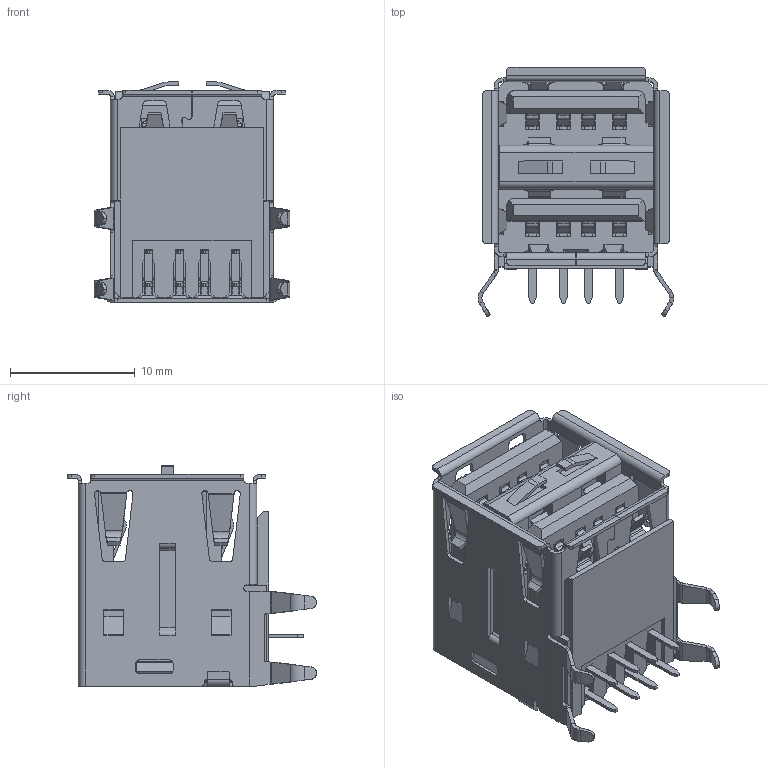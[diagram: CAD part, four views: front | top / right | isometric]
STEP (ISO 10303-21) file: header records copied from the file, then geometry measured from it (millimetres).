
FILE_DESCRIPTION(/* description */ ('STEP AP214'),/* implementation_level */ '2;1');
FILE_NAME(/* name */ 'USB1035-15-P-1-B-B',/* time_stamp */ '2022-08-16T17:51:00+02:00',/* author */ ('License CC BY-ND 4.0'),/* organization */ ('CADENAS'),/* preprocessor_version */ 'ST-DEVELOPER v18.102',/* originating_system */ 'PARTsolutions',/* authorisation */ ' ');
FILE_SCHEMA (('AUTOMOTIVE_DESIGN {1 0 10303 214 3 1 1}'));
Products named in the file (2): USB1035-15-P-1-B-B; USB1035-15-P-1-B-B_PART1
Assembly tree (1 placements, depth 2):
  USB1035-15-P-1-B-B
    USB1035-15-P-1-B-B_PART1
Bounding box: 15.72 x 20 x 17.68 mm (x, y, z)
Surface area: 5294.2 mm2 (no closed solid volume)
Topology: 0 solids, 1 shells, 2081 faces, 6104 edges, 3901 vertices
Faces by surface type: plane 1312, cylinder 606, bspline 163
Entity records: 86450 total; most frequent: CARTESIAN_POINT 17004, ORIENTED_EDGE 12184, DIRECTION 10535, EDGE_CURVE 6104, LINE 4387, VECTOR 4387, VERTEX_POINT 3901, AXIS2_PLACEMENT_3D 3074
